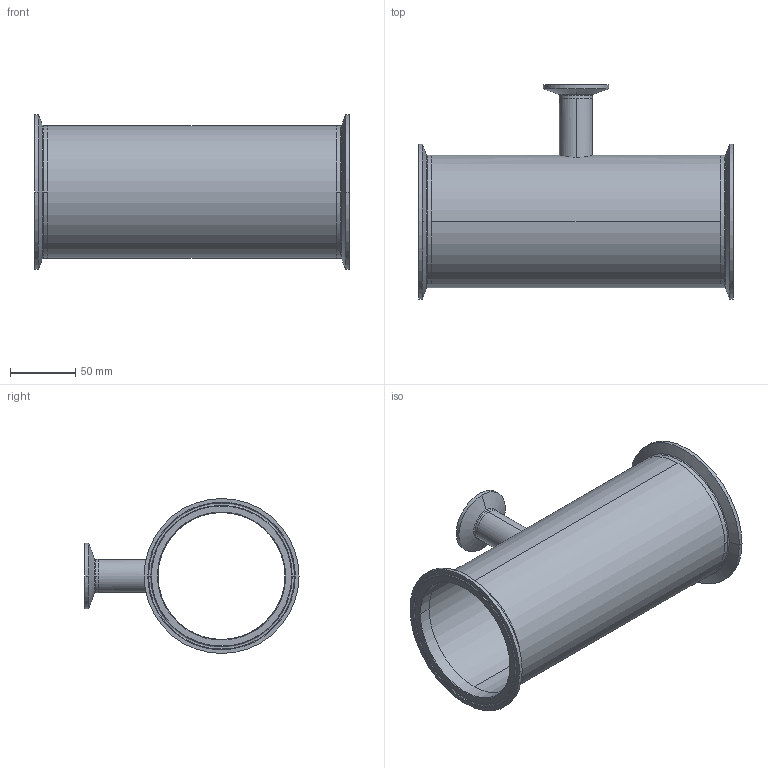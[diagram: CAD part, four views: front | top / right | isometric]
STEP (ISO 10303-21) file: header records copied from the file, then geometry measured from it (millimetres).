
FILE_DESCRIPTION (( 'STEP AP214' ), '1' );
FILE_NAME ('TEG7R6L4.0x1.0-...STEP', '2016-05-24T07:24:20', ( 'eran' ), ( '' ), 'SwSTEP 2.0', 'SolidWorks 2016', '' );
FILE_SCHEMA (( 'AUTOMOTIVE_DESIGN' ));
Length unit declared in the file: millimetre
Products named in the file (1): TEG7R6L4.0x1.0-..
Bounding box: 241.4 x 164.26 x 118.92 mm (x, y, z)
Volume: 197584.3 mm3; surface area: 176486 mm2
Topology: 4 solids, 4 shells, 86 faces, 212 edges, 138 vertices
Faces by surface type: bspline 30, cylinder 26, cone 18, plane 12
Entity records: 4669 total; most frequent: CARTESIAN_POINT 2573, DIRECTION 450, ORIENTED_EDGE 424, EDGE_CURVE 212, AXIS2_PLACEMENT_3D 203, CIRCLE 146, VERTEX_POINT 138, EDGE_LOOP 100
